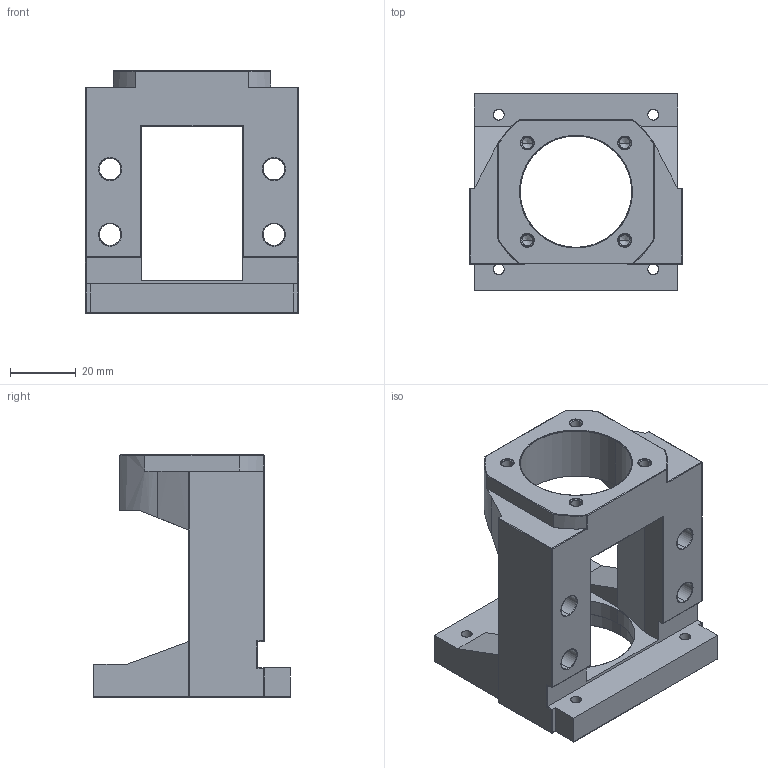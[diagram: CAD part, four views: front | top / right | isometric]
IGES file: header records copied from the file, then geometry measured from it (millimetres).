
Start section: SolidWorks IGES file using analytic representation for surfaces
Global section: file name: 0HC:\Users\117\Desktop\1061208網站3D圖檔問題處理\傳動座\外露型\MBA\美式MBA10-C.IGS; native system: SolidWorks 2017; preprocessor: SolidWorks 2017; author: 117; date: 171228.135555; units: millimetre
Bounding box: 65 x 60 x 74 mm (x, y, z)
Surface area: 25935.4 mm2 (no closed solid volume)
Topology: 0 solids, 0 shells, 192 faces, 2310 edges, 2292 vertices
Faces by surface type: revolution 117, bspline 75
